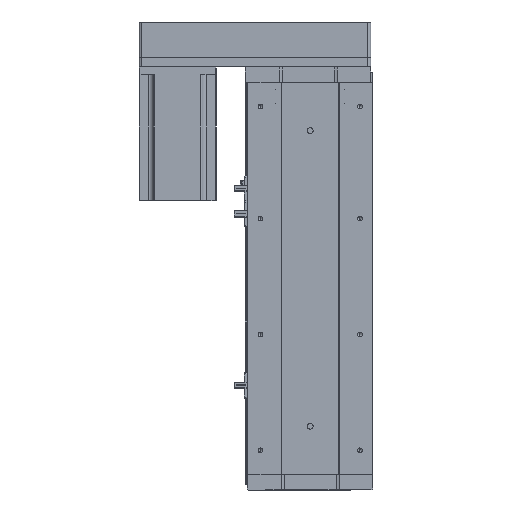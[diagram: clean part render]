
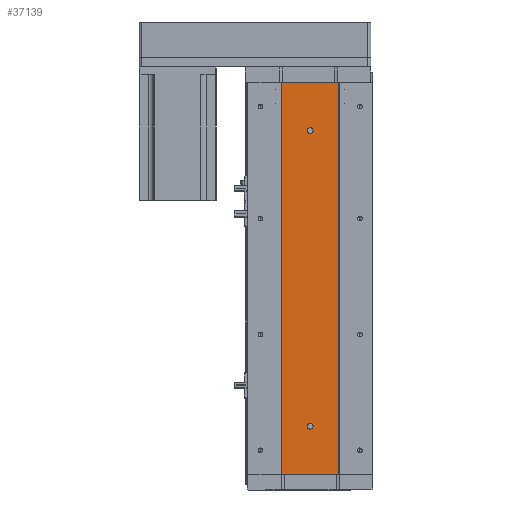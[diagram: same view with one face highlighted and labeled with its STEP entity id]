
A CAD part, left-side view. The second image highlights one B-rep face of the part: STEP entity #37139.
In plain terms, the highlighted planar face has unit normal (-1, 0, 0).
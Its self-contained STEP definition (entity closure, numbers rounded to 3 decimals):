
#9 = CARTESIAN_POINT ( 'NONE',  ( -24.994, -29.785, 406. ) ) ;
#523 = DIRECTION ( 'NONE',  ( -1., 0., 0. ) ) ;
#1550 = CARTESIAN_POINT ( 'NONE',  ( -24.994, 0., 356. ) ) ;
#1678 = VERTEX_POINT ( 'NONE', #9326 ) ;
#1855 = CARTESIAN_POINT ( 'NONE',  ( -24.994, 29.785, 0. ) ) ;
#2027 = CARTESIAN_POINT ( 'NONE',  ( -24.994, 29.785, 406. ) ) ;
#2718 = LINE ( 'NONE', #1855, #19561 ) ;
#2826 = EDGE_CURVE ( 'NONE', #39301, #1678, #41642, .T. ) ;
#4178 = ORIENTED_EDGE ( 'NONE', *, *, #27081, .F. ) ;
#4676 = VERTEX_POINT ( 'NONE', #32788 ) ;
#4958 = DIRECTION ( 'NONE',  ( 0., 0., 1. ) ) ;
#5214 = VERTEX_POINT ( 'NONE', #20021 ) ;
#7678 = CARTESIAN_POINT ( 'NONE',  ( -24.994, 0., 50. ) ) ;
#8236 = CARTESIAN_POINT ( 'NONE',  ( -24.994, 0., 353. ) ) ;
#8264 = ORIENTED_EDGE ( 'NONE', *, *, #32658, .F. ) ;
#8368 = DIRECTION ( 'NONE',  ( 1., 0., 0. ) ) ;
#9153 = CIRCLE ( 'NONE', #25272, 3. ) ;
#9326 = CARTESIAN_POINT ( 'NONE',  ( -24.994, 29.785, 0. ) ) ;
#11020 = DIRECTION ( 'NONE',  ( 0., 0., 1. ) ) ;
#12641 = VECTOR ( 'NONE', #23498, 1000. ) ;
#13326 = EDGE_CURVE ( 'NONE', #1678, #5214, #2718, .T. ) ;
#14037 = VERTEX_POINT ( 'NONE', #32447 ) ;
#14246 = ORIENTED_EDGE ( 'NONE', *, *, #2826, .T. ) ;
#14725 = CARTESIAN_POINT ( 'NONE',  ( -24.994, 29.785, 406. ) ) ;
#15111 = AXIS2_PLACEMENT_3D ( 'NONE', #7678, #31102, #11020 ) ;
#15550 = DIRECTION ( 'NONE',  ( 0., -1., 0. ) ) ;
#16730 = VECTOR ( 'NONE', #15550, 1000. ) ;
#17340 = AXIS2_PLACEMENT_3D ( 'NONE', #28444, #8368, #31821 ) ;
#18087 = CARTESIAN_POINT ( 'NONE',  ( -24.994, 0., 50. ) ) ;
#19358 = FACE_OUTER_BOUND ( 'NONE', #22917, .T. ) ;
#19561 = VECTOR ( 'NONE', #28845, 1000. ) ;
#20021 = CARTESIAN_POINT ( 'NONE',  ( -24.994, -29.785, 0. ) ) ;
#20681 = CARTESIAN_POINT ( 'NONE',  ( -24.994, 0., 356. ) ) ;
#21458 = DIRECTION ( 'NONE',  ( 0., 0., 1. ) ) ;
#21518 = DIRECTION ( 'NONE',  ( 0., 0., -1. ) ) ;
#21832 = EDGE_CURVE ( 'NONE', #4676, #32518, #34712, .T. ) ;
#22917 = EDGE_LOOP ( 'NONE', ( #31446, #24577, #4178, #14246 ) ) ;
#23498 = DIRECTION ( 'NONE',  ( 0., 0., -1. ) ) ;
#23800 = CIRCLE ( 'NONE', #15111, 3. ) ;
#24016 = DIRECTION ( 'NONE',  ( 0., 0., 1. ) ) ;
#24318 = CARTESIAN_POINT ( 'NONE',  ( -24.994, 29.785, 406. ) ) ;
#24345 = ORIENTED_EDGE ( 'NONE', *, *, #31996, .F. ) ;
#24577 = ORIENTED_EDGE ( 'NONE', *, *, #30187, .F. ) ;
#24873 = EDGE_LOOP ( 'NONE', ( #27013, #24345 ) ) ;
#25031 = DIRECTION ( 'NONE',  ( -1., 0., 0. ) ) ;
#25272 = AXIS2_PLACEMENT_3D ( 'NONE', #1550, #25031, #4958 ) ;
#25623 = LINE ( 'NONE', #2027, #16730 ) ;
#27013 = ORIENTED_EDGE ( 'NONE', *, *, #21832, .F. ) ;
#27081 = EDGE_CURVE ( 'NONE', #39301, #28899, #25623, .T. ) ;
#27398 = CARTESIAN_POINT ( 'NONE',  ( -24.994, 0., 47. ) ) ;
#27800 = EDGE_LOOP ( 'NONE', ( #41518, #8264 ) ) ;
#28444 = CARTESIAN_POINT ( 'NONE',  ( -24.994, 29.785, 406. ) ) ;
#28845 = DIRECTION ( 'NONE',  ( 0., -1., 0. ) ) ;
#28899 = VERTEX_POINT ( 'NONE', #35971 ) ;
#30118 = CIRCLE ( 'NONE', #35631, 3. ) ;
#30187 = EDGE_CURVE ( 'NONE', #28899, #5214, #38298, .T. ) ;
#30426 = VERTEX_POINT ( 'NONE', #8236 ) ;
#31102 = DIRECTION ( 'NONE',  ( -1., 0., 0. ) ) ;
#31381 = AXIS2_PLACEMENT_3D ( 'NONE', #18087, #41494, #21458 ) ;
#31446 = ORIENTED_EDGE ( 'NONE', *, *, #13326, .T. ) ;
#31673 = VECTOR ( 'NONE', #21518, 1000. ) ;
#31821 = DIRECTION ( 'NONE',  ( 0., 0., -1. ) ) ;
#31996 = EDGE_CURVE ( 'NONE', #32518, #4676, #23800, .T. ) ;
#32447 = CARTESIAN_POINT ( 'NONE',  ( -24.994, 0., 359. ) ) ;
#32518 = VERTEX_POINT ( 'NONE', #27398 ) ;
#32658 = EDGE_CURVE ( 'NONE', #30426, #14037, #9153, .T. ) ;
#32788 = CARTESIAN_POINT ( 'NONE',  ( -24.994, 0., 53. ) ) ;
#32938 = EDGE_CURVE ( 'NONE', #14037, #30426, #30118, .T. ) ;
#34712 = CIRCLE ( 'NONE', #31381, 3. ) ;
#35024 = PLANE ( 'NONE',  #17340 ) ;
#35631 = AXIS2_PLACEMENT_3D ( 'NONE', #20681, #523, #24016 ) ;
#35971 = CARTESIAN_POINT ( 'NONE',  ( -24.994, -29.785, 406. ) ) ;
#36027 = FACE_BOUND ( 'NONE', #27800, .T. ) ;
#37108 = FACE_BOUND ( 'NONE', #24873, .T. ) ;
#37139 = ADVANCED_FACE ( 'NONE', ( #36027, #37108, #19358 ), #35024, .F. ) ;
#38298 = LINE ( 'NONE', #9, #12641 ) ;
#39301 = VERTEX_POINT ( 'NONE', #24318 ) ;
#41494 = DIRECTION ( 'NONE',  ( -1., 0., 0. ) ) ;
#41518 = ORIENTED_EDGE ( 'NONE', *, *, #32938, .F. ) ;
#41642 = LINE ( 'NONE', #14725, #31673 ) ;
